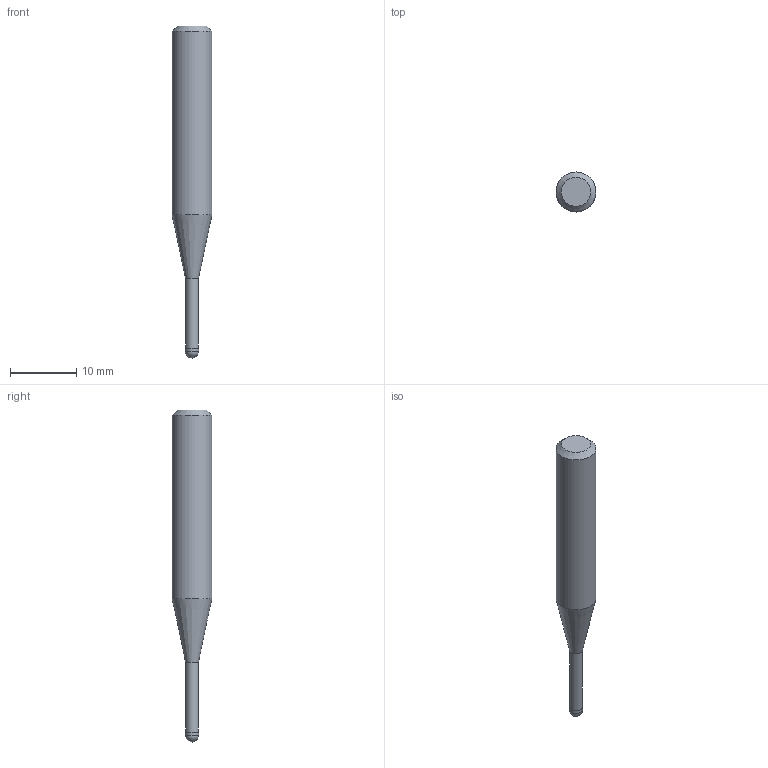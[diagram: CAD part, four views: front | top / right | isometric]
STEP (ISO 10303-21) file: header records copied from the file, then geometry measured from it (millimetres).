
FILE_DESCRIPTION((''),'2;1');
FILE_NAME('C:\Users\nsx150\AppData\Local\Temp\Mastercam 2021\ARV7HD45SN\TEMP.step','2023-06-13T16:37:32',(''),(''),'STEP Write','Mastercam 2021 ... CNC Software, Inc.','');
FILE_SCHEMA(('AUTOMOTIVE_DESIGN'));
Length unit declared in the file: millimetre
Products named in the file (1): None
Bounding box: 6 x 6 x 50 mm (x, y, z)
Volume: 962.1 mm3; surface area: 756.2 mm2
Topology: 2 solids, 2 shells, 9 faces, 14 edges, 8 vertices
Faces by surface type: plane 3, cylinder 3, cone 2, sphere 1
Full cylindrical faces by diameter (mm): 1.94 x1, 2 x1, 6 x1
Entity records: 211 total; most frequent: DIRECTION 36, CARTESIAN_POINT 25, AXIS2_PLACEMENT_3D 18, ORIENTED_EDGE 14, EDGE_LOOP 14, STYLED_ITEM 12, ADVANCED_FACE 9, FACE_BOUND 8
